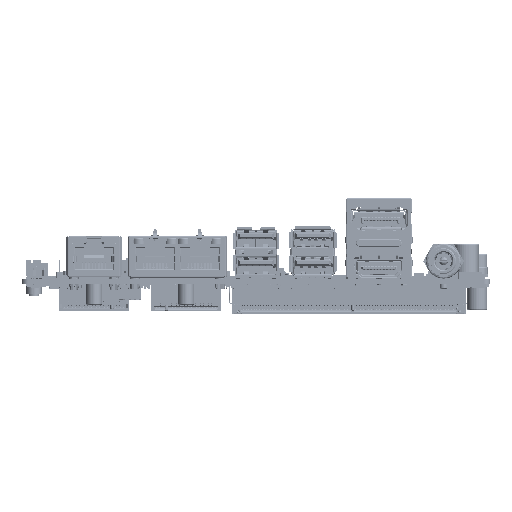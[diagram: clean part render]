
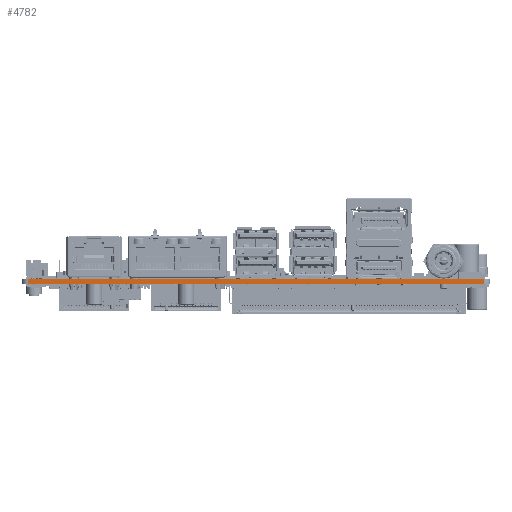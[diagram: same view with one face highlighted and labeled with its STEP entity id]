
A CAD part, top view. The second image highlights one B-rep face of the part: STEP entity #4782.
In plain terms, the highlighted planar face has unit normal (0, 0, 1).
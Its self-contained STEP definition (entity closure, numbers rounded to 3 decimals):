
#710=DIRECTION('',(1.,0.,0.));
#711=VECTOR('',#710,142.05);
#712=CARTESIAN_POINT('',(-144.05,0.,0.));
#713=LINE('',#712,#711);
#1555=DIRECTION('',(1.,0.,0.));
#1556=VECTOR('',#1555,142.05);
#1557=CARTESIAN_POINT('',(-144.05,-1.6,0.));
#1558=LINE('',#1557,#1556);
#2371=DIRECTION('',(0.,-1.,0.));
#2372=VECTOR('',#2371,1.6);
#2373=CARTESIAN_POINT('',(-144.05,0.,0.));
#2374=LINE('',#2373,#2372);
#2378=DIRECTION('',(0.,-1.,0.));
#2379=VECTOR('',#2378,1.6);
#2380=CARTESIAN_POINT('',(-2.,0.,0.));
#2381=LINE('',#2380,#2379);
#2867=CARTESIAN_POINT('',(-144.05,-1.6,0.));
#2869=VERTEX_POINT('',#2867);
#2873=CARTESIAN_POINT('',(-144.05,0.,0.));
#2874=VERTEX_POINT('',#2873);
#2892=CARTESIAN_POINT('',(-2.,-1.6,0.));
#2894=VERTEX_POINT('',#2892);
#2895=CARTESIAN_POINT('',(-2.,0.,0.));
#2896=VERTEX_POINT('',#2895);
#4771=CARTESIAN_POINT('',(-146.05,0.,0.));
#4772=DIRECTION('',(0.,0.,1.));
#4773=DIRECTION('',(1.,0.,0.));
#4774=AXIS2_PLACEMENT_3D('',#4771,#4772,#4773);
#4775=PLANE('',#4774);
#4776=ORIENTED_EDGE('',*,*,#4688,.F.);
#4777=ORIENTED_EDGE('',*,*,#2998,.T.);
#4778=ORIENTED_EDGE('',*,*,#4764,.T.);
#4779=ORIENTED_EDGE('',*,*,#3344,.F.);
#4780=EDGE_LOOP('',(#4776,#4777,#4778,#4779));
#4781=FACE_OUTER_BOUND('',#4780,.F.);
#4782=ADVANCED_FACE('',(#4781),#4775,.T.);
#2998=EDGE_CURVE('',#2874,#2896,#713,.T.);
#3344=EDGE_CURVE('',#2869,#2894,#1558,.T.);
#4688=EDGE_CURVE('',#2874,#2869,#2374,.T.);
#4764=EDGE_CURVE('',#2896,#2894,#2381,.T.);
